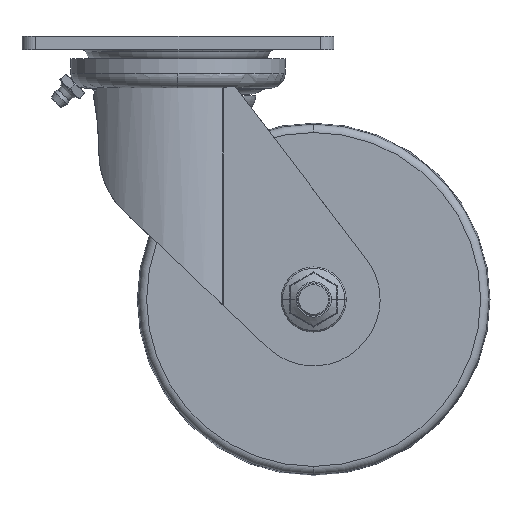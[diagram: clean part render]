
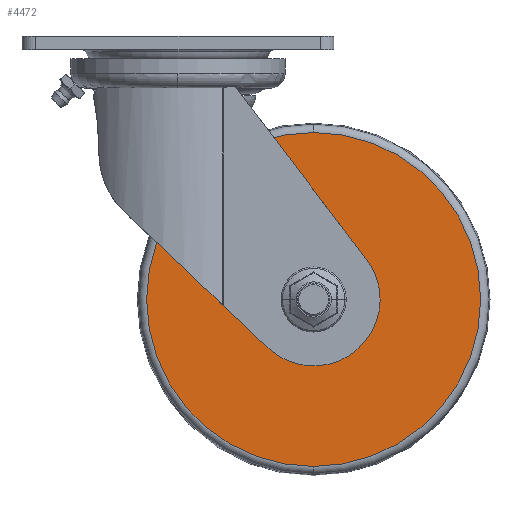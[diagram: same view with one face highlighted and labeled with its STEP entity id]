
A CAD part, front view. The second image highlights one B-rep face of the part: STEP entity #4472.
In plain terms, the highlighted planar face has unit normal (0, -1, 0).
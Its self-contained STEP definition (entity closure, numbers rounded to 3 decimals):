
#1536=CARTESIAN_POINT('',(143.289,-157.285,193.35));
#1537=VERTEX_POINT('',#1536);
#1546=CARTESIAN_POINT('',(143.289,-157.285,70.238));
#1547=VERTEX_POINT('',#1546);
#1555=CARTESIAN_POINT('',(143.289,-157.285,131.794));
#1556=DIRECTION('',(0.0,1.0,0.0));
#1557=DIRECTION('',(0.0,0.0,1.0));
#1558=AXIS2_PLACEMENT_3D('',#1555,#1556,#1557);
#1559=CIRCLE('',#1558,61.556);
#1560=EDGE_CURVE('',#1547,#1537,#1559,.T.);
#1604=CARTESIAN_POINT('',(143.289,-157.285,141.794));
#1605=VERTEX_POINT('',#1604);
#1614=CARTESIAN_POINT('',(143.289,-157.285,121.794));
#1615=VERTEX_POINT('',#1614);
#1616=CARTESIAN_POINT('',(143.289,-157.285,131.794));
#1617=DIRECTION('',(0.0,1.0,0.0));
#1618=DIRECTION('',(0.0,0.0,1.0));
#1619=AXIS2_PLACEMENT_3D('',#1616,#1617,#1618);
#1620=CIRCLE('',#1619,10.0);
#1621=EDGE_CURVE('',#1615,#1605,#1620,.T.);
#4405=CARTESIAN_POINT('',(143.289,-157.285,131.794));
#4406=DIRECTION('',(0.0,1.0,0.0));
#4407=DIRECTION('',(0.0,0.0,1.0));
#4408=AXIS2_PLACEMENT_3D('',#4405,#4406,#4407);
#4409=CIRCLE('',#4408,10.0);
#4410=EDGE_CURVE('',#1605,#1615,#4409,.T.);
#4453=CARTESIAN_POINT('',(143.289,-157.285,167.572));
#4454=DIRECTION('',(0.0,-1.0,0.0));
#4455=DIRECTION('',(0.0,0.0,-1.0));
#4456=AXIS2_PLACEMENT_3D('',#4453,#4454,#4455);
#4457=PLANE('',#4456);
#4458=CARTESIAN_POINT('',(143.289,-157.285,131.794));
#4459=DIRECTION('',(0.0,1.0,0.0));
#4460=DIRECTION('',(0.0,0.0,1.0));
#4461=AXIS2_PLACEMENT_3D('',#4458,#4459,#4460);
#4462=CIRCLE('',#4461,61.556);
#4463=EDGE_CURVE('',#1537,#1547,#4462,.T.);
#4464=ORIENTED_EDGE('',*,*,#4463,.F.);
#4465=ORIENTED_EDGE('',*,*,#1560,.F.);
#4466=EDGE_LOOP('',(#4464,#4465));
#4467=FACE_OUTER_BOUND('',#4466,.T.);
#4468=ORIENTED_EDGE('',*,*,#4410,.T.);
#4469=ORIENTED_EDGE('',*,*,#1621,.T.);
#4470=EDGE_LOOP('',(#4468,#4469));
#4471=FACE_BOUND('',#4470,.T.);
#4472=ADVANCED_FACE('',(#4467,#4471),#4457,.T.);
